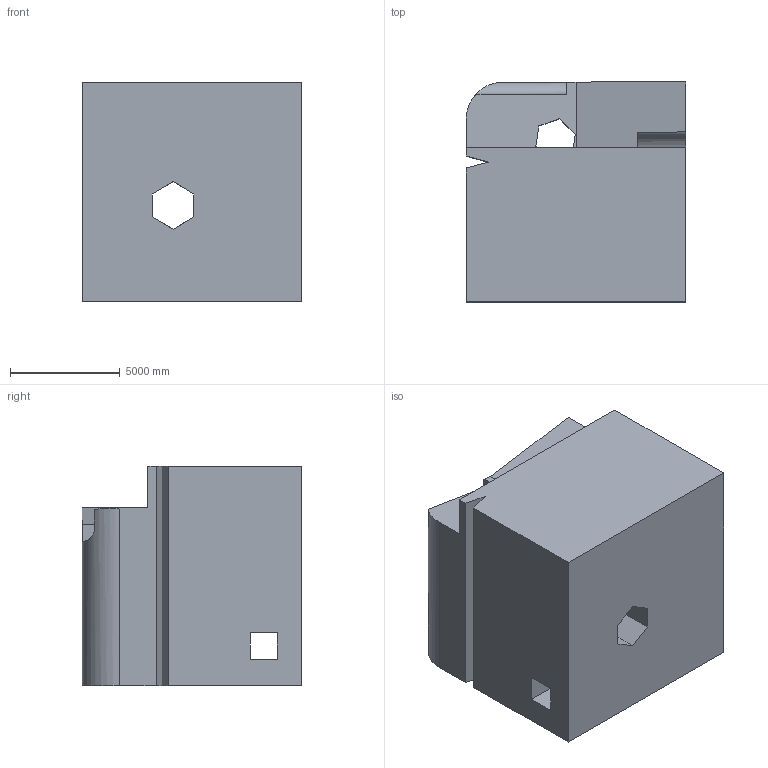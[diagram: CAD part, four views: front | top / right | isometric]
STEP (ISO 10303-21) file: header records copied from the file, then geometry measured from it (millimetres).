
FILE_DESCRIPTION (( 'STEP AP203' ), '1' );
FILE_NAME ('776.STEP', '2022-07-29T13:07:55', ( 'user' ), ( '' ), 'SwSTEP 2.0', 'SolidWorks 2021', '' );
FILE_SCHEMA (( 'CONFIG_CONTROL_DESIGN' ));
Length unit declared in the file: centimetre
Products named in the file (1): 776
Bounding box: 10000 x 10000 x 10000 mm (x, y, z)
Volume: 853594380583.5 mm3; surface area: 734784476.8 mm2
Topology: 1 solids, 1 shells, 44 faces, 135 edges, 90 vertices
Faces by surface type: plane 39, cylinder 5
Entity records: 1655 total; most frequent: CARTESIAN_POINT 353, ORIENTED_EDGE 270, DIRECTION 230, EDGE_CURVE 135, LINE 124, VECTOR 124, VERTEX_POINT 90, AXIS2_PLACEMENT_3D 53
